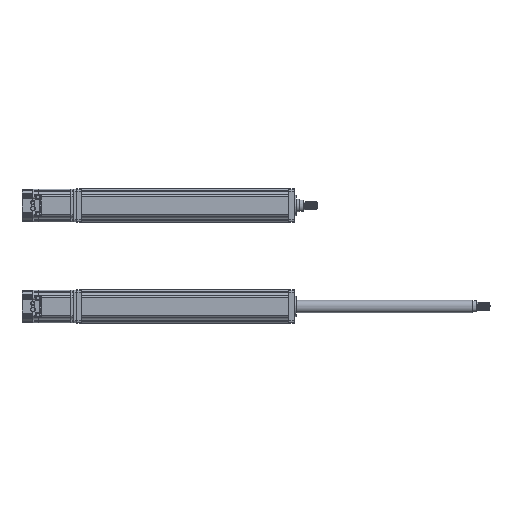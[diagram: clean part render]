
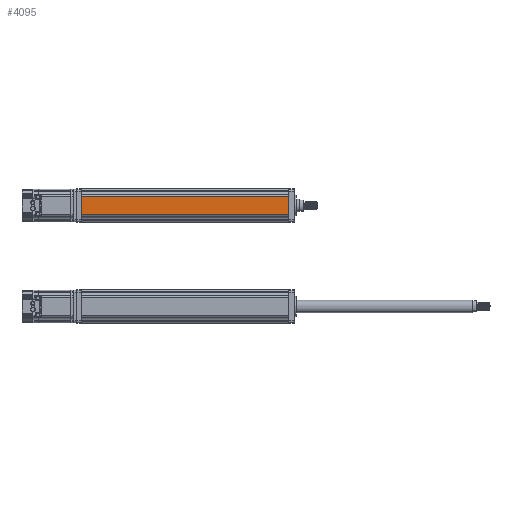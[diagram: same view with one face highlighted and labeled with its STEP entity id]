
A CAD part, top view. The second image highlights one B-rep face of the part: STEP entity #4095.
In plain terms, the highlighted planar face has unit normal (0, 0, 1).
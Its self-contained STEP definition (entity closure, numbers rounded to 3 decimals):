
#4095=ADVANCED_FACE('',(#8896),#8897,.F.);
#8896=FACE_OUTER_BOUND('',#21689,.T.);
#8897=PLANE('',#21690);
#21689=EDGE_LOOP('',(#35829,#35830,#35831,#35832));
#21690=AXIS2_PLACEMENT_3D('',#35833,#35834,#35835);
#35829=ORIENTED_EDGE('',*,*,#48856,.F.);
#35830=ORIENTED_EDGE('',*,*,#49382,.F.);
#35831=ORIENTED_EDGE('',*,*,#48752,.F.);
#35832=ORIENTED_EDGE('',*,*,#49383,.F.);
#35833=CARTESIAN_POINT('',(604.0,182.885,203.67));
#35834=DIRECTION('',(0.,0.,-1.0));
#35835=DIRECTION('',(1.0,0.,0.));
#48752=EDGE_CURVE('',#58157,#58159,#58160,.T.);
#48856=EDGE_CURVE('',#58312,#58314,#58315,.T.);
#49382=EDGE_CURVE('',#58159,#58312,#59066,.T.);
#49383=EDGE_CURVE('',#58314,#58157,#59067,.T.);
#58157=VERTEX_POINT('',#95865);
#58159=VERTEX_POINT('',#95867);
#58160=LINE('',#95868,#95869);
#58312=VERTEX_POINT('',#96339);
#58314=VERTEX_POINT('',#96341);
#58315=LINE('',#96342,#96343);
#59066=LINE('',#97502,#97503);
#59067=LINE('',#97504,#97505);
#95865=CARTESIAN_POINT('',(604.0,182.885,203.67));
#95867=CARTESIAN_POINT('',(964.0,182.885,203.67));
#95868=CARTESIAN_POINT('',(784.0,182.885,203.67));
#95869=VECTOR('',#109547,2.25);
#96339=CARTESIAN_POINT('',(964.0,150.885,203.67));
#96341=CARTESIAN_POINT('',(604.0,150.885,203.67));
#96342=CARTESIAN_POINT('',(784.0,150.885,203.67));
#96343=VECTOR('',#109653,2.25);
#97502=CARTESIAN_POINT('',(964.0,166.885,203.67));
#97503=VECTOR('',#110249,1.0);
#97504=CARTESIAN_POINT('',(604.0,166.885,203.67));
#97505=VECTOR('',#110250,1.0);
#109547=DIRECTION('',(1.0,0.,0.));
#109653=DIRECTION('',(-1.0,0.,0.));
#110249=DIRECTION('',(0.,-1.0,0.0));
#110250=DIRECTION('',(0.,1.0,0.0));
